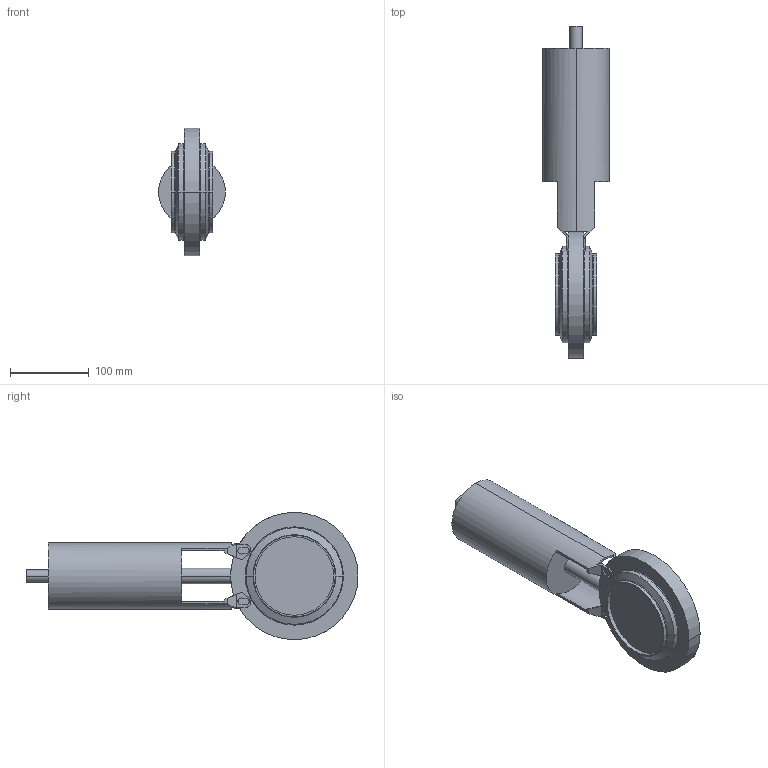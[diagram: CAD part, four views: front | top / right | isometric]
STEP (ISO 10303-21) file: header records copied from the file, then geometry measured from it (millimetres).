
FILE_DESCRIPTION(('Creo Elements/Direct Modeling STEP Export'),'2;1');
FILE_NAME('SV1-100-FZ-12S.stp','2015-12-04T10:51:25',(''),(''),'PTC Creo Elements/Direct Modeling STEP processor for AP214 (Solid Model)','PTC Creo Elements/Direct Modeling 19.0B 21-Mar-2015 (C) Parametric Technology GmbH','');
FILE_SCHEMA(('AUTOMOTIVE_DESIGN { 1 0 10303 214 1 1 1 1 }'));
Length unit declared in the file: millimetre
Products named in the file (3): SV1-100-FZ-12S; Luftanschluß
Assembly tree (2 placements, depth 2):
  SV1-100-FZ-12S
    Luftanschluß
    SV1-100-FZ-12S
Bounding box: 85 x 422.51 x 162 mm (x, y, z)
Volume: 1680793.4 mm3; surface area: 141809.5 mm2
Topology: 2 solids, 2 shells, 120 faces, 315 edges, 200 vertices
Faces by surface type: plane 74, cylinder 34, torus 8, cone 4
Entity records: 4058 total; most frequent: CARTESIAN_POINT 1120, ORIENTED_EDGE 630, DIRECTION 579, EDGE_CURVE 315, VERTEX_POINT 200, AXIS2_PLACEMENT_3D 198, VECTOR 183, LINE 183
